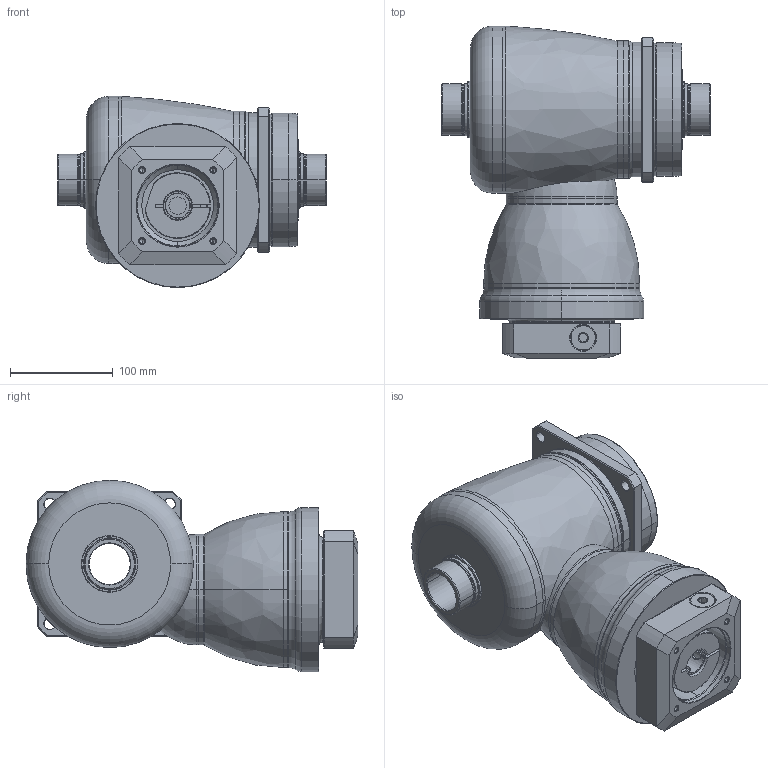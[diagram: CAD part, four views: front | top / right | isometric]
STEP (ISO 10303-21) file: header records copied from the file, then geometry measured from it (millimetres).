
FILE_DESCRIPTION((''),'2;1');
FILE_NAME('KF140_S4_1ST_24-P0409500101_ASM','2016-07-20T',('d01943'),(''),'PRO/ENGINEER BY PARAMETRIC TECHNOLOGY CORPORATION, 2008410','PRO/ENGINEER BY PARAMETRIC TECHNOLOGY CORPORATION, 2008410','');
FILE_SCHEMA(('CONFIG_CONTROL_DESIGN'));
Length unit declared in the file: millimetre
Products named in the file (11): P1008500002; P1804500001; P0914500001; P1315500001; P1007500001; P1318500001; P0409500101; P0503500010; P0912500201; 21711418017; KF140_S4_1ST_24-P0409500101_ASM
Assembly tree (10 placements, depth 2):
  KF140_S4_1ST_24-P0409500101_ASM
    P1008500002
    P1804500001
    P0914500001
    P1315500001
    P1007500001
    P1318500001
    P0409500101
    P0503500010
    P0912500201
    21711418017
Bounding box: 262 x 323.5 x 186.5 mm (x, y, z)
Volume: 4760298.5 mm3; surface area: 567857 mm2
Topology: 11 solids, 11 shells, 489 faces, 1082 edges, 636 vertices
Faces by surface type: cylinder 166, cone 134, plane 98, torus 68, bspline 21, sphere 2
Entity records: 18610 total; most frequent: CARTESIAN_POINT 7516, DIRECTION 2477, ORIENTED_EDGE 2128, EDGE_CURVE 1064, AXIS2_PLACEMENT_3D 1051, VERTEX_POINT 636, CIRCLE 562, EDGE_LOOP 558
